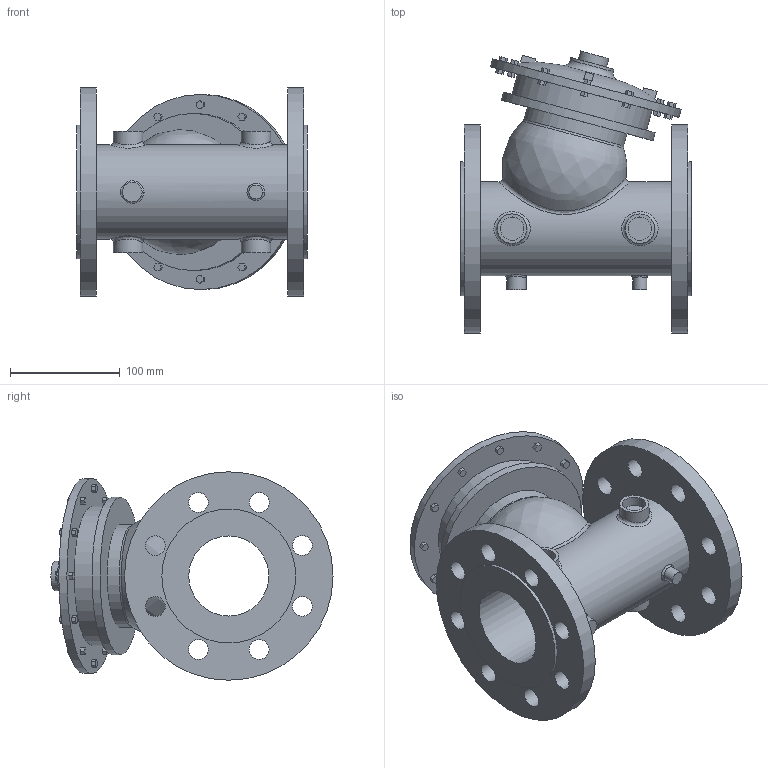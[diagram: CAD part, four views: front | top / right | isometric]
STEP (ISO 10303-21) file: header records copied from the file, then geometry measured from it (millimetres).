
FILE_DESCRIPTION(/* description */ ('VIC FP VALVE PRESSURE RELIEF SERIES 867-7UF (PN16)','CAx-IF Rec.Pracs.---Representation and Presentation of Product Manufacturing Information (PMI)---4.0---2014-10-13'),/* implementation_level */ '2;1');
FILE_NAME(/* name */ 'C:\Series 867-7UF\Series 867-7UF final\pn16\step\Victaulic_FP-Bermad_Valve Pressure Relief_Series 867-7UF (PN16)\Victaulic_FP-Bermad_Valve Pressure Relief_Series 867-7UF (PN16)_2.5 (65).stp',/* time_stamp */ '2021-09-02T19:16:52+06:00',/* author */ ('kkamble'),/* organization */ ('Victaulic'),/* preprocessor_version */ 'ST-DEVELOPER v17.2',/* originating_system */ 'Autodesk Inventor 2019',/* authorisation */ '');
FILE_SCHEMA (('AP242_MANAGED_MODEL_BASED_3D_ENGINEERING_MIM_LF { 1 0 10303 442 1 1 4 }'));
Length unit declared in the file: inch
Products named in the file (1): 867-7UF-02.5
Bounding box: 210.06 x 257.06 x 189.99 mm (x, y, z)
Volume: 2269158.9 mm3; surface area: 308700.9 mm2
Topology: 1 solids, 1 shells, 260 faces, 662 edges, 449 vertices
Faces by surface type: plane 210, cylinder 39, bspline 9, torus 2
Full cylindrical faces by diameter (mm): 12.7 x1, 17.78 x1, 18 x16, 21.336 x4, 26.67 x1, 26.873 x4, 40.64 x1, 73.025 x1, 85.725 x1, 93.98 x1, 122 x2, 127 x1, 143.256 x1, 177.8 x1, 189.992 x2
Entity records: 9389 total; most frequent: CARTESIAN_POINT 2570, ORIENTED_EDGE 1336, DIRECTION 1263, EDGE_CURVE 668, LINE 511, VECTOR 511, VERTEX_POINT 455, AXIS2_PLACEMENT_3D 376
